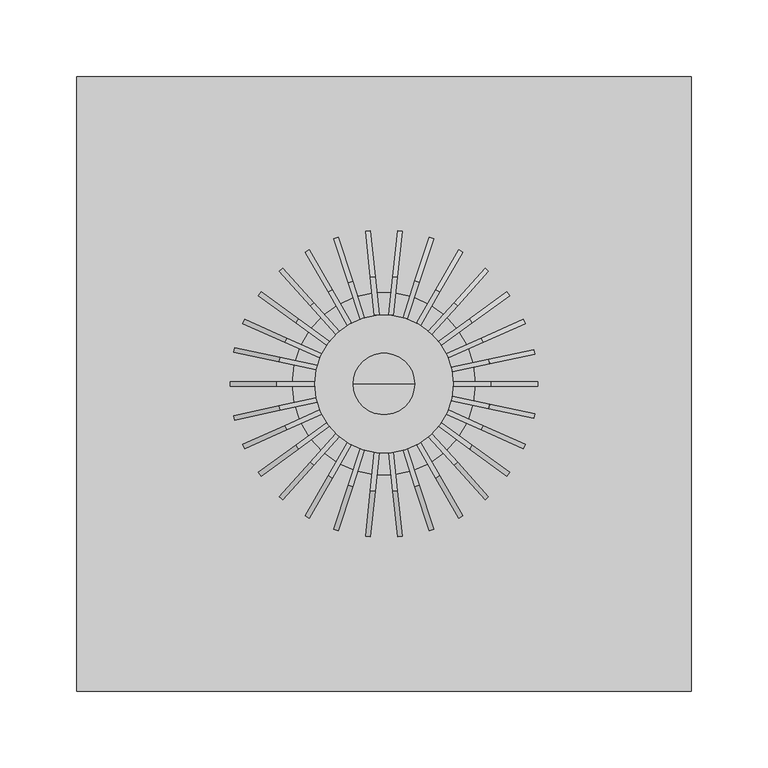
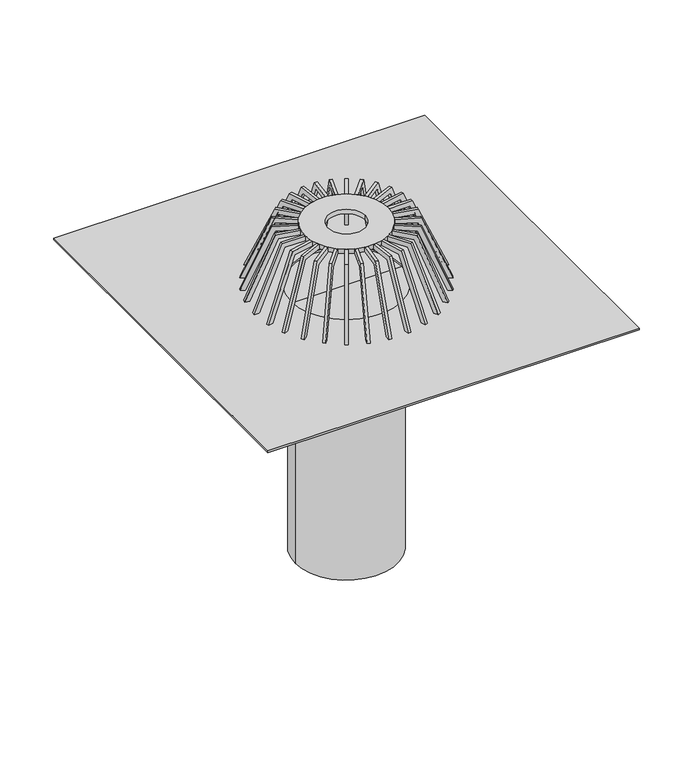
"""IFC4 building model written with IfcOpenShell, lengths in millimetres: sanitary terminal geometry, NLRS_52_PF_LB_trechter met aansluitplaat ø110mm_geb : d110 - 6L/s."""

from ifc_helpers import new_model, si_unit, point, frame, origin, origin_2d, place, context, project, spatial, polyline, circle_curve, trimmed, segment, composite_curve, outline, extrude, source, transform, mapped, element, save
from ifc_brep_helpers import plane_surface, cylinder_surface, revolved_surface, advanced_brep


def sanitary_terminal_4983428c(model_context):
    return source(origin(), model_context, "Body", "SolidModel", [
        extrude(outline(polyline([(-5.0, 0.0), (0.0, 0.0), (-30.0, -70.0), (-55.0, -70.0), (-55.0, -65.0), (-32.8571428, -65.0), (-5.0, 0.0)])), frame((68.0277779, 73.3107866, 0.0), z_axis=(-0.7431448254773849, 0.6691306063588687, 0.0), x_axis=(0.6691306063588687, 0.7431448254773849, 0.0)), (0.0, 0.0, 1.0), 3.0),
        extrude(outline(composite_curve([segment(trimmed(circle_curve(origin_2d(), 45.0), [point((45.0, 0.0))], [point((-45.0, 0.0))], False, "CARTESIAN"), True, "CONTINUOUS"), segment(trimmed(circle_curve(origin_2d(), 45.0), [point((-45.0, 0.0))], [point((45.0, 0.0))], False, "CARTESIAN"), True, "CONTINUOUS")], self_intersect=False), holes=[composite_curve([segment(trimmed(circle_curve(origin_2d(), 20.0), [point((20.0, 0.0))], [point((-20.0, 0.0))], True, "CARTESIAN"), True, "CONTINUOUS"), segment(trimmed(circle_curve(origin_2d(), 20.0), [point((-20.0, 0.0))], [point((20.0, 0.0))], True, "CARTESIAN"), True, "CONTINUOUS")], self_intersect=False)]), frame((0.0, 0.0, 65.0), z_axis=(0.0, 0.0, 1.0), x_axis=(1.0, 0.0, 0.0)), (0.0, 0.0, 1.0), 5.0),
        extrude(outline(polyline([(0.0, 0.0), (1.9695965, -4.5957252), (-74.1881346, -4.5957252), (-84.036117, 18.3829006), (-79.4403919, 20.3524971), (-70.7178931, 0.0), (0.0, 0.0)])), frame((62.4526904, -71.6024543, 0.0), z_axis=(0.7431448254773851, 0.6691306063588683, 0.0), x_axis=(0.2635834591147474, -0.29273908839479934, -0.9191450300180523)), (0.0, 0.0, 1.0), 3.0),
        extrude(outline(polyline([(0.0, 0.0), (1.9695965, -4.5957252), (-74.1881346, -4.5957252), (-84.036117, 18.3829006), (-79.4403919, 20.3524971), (-70.7178931, -1e-07), (0.0, 0.0)])), frame((92.6121545, -21.218832, 0.0), z_axis=(0.20791169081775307, 0.978147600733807, 0.0), x_axis=(0.3853112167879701, -0.08190042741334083, -0.9191450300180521)), (0.0, 0.0, 1.0), 3.0),
        extrude(outline(polyline([(0.0, 0.0), (1.9695965, -4.5957251), (-74.1881346, -4.5957251), (-84.0361171, 18.3829007), (-79.4403919, 20.3524971), (-70.7178931, 0.0), (0.0, 0.0)])), frame((75.9871909, -57.0620277, 0.0), z_axis=(0.5877852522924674, 0.8090169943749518, 0.0), x_axis=(0.31868740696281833, -0.23153995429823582, -0.9191450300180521)), (0.0, 0.0, 1.0), 3.0),
        extrude(outline(polyline([(0.0, 0.0), (1.9695965, -4.5957252), (-74.1881346, -4.5957252), (-84.036117, 18.3829006), (-79.4403919, 20.3524971), (-70.7178931, 0.0), (0.0, 0.0)])), frame((86.1767135, -40.0102993, 0.0), z_axis=(0.4067366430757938, 0.9135454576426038, 0.0), x_axis=(0.3598631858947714, -0.16022141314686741, -0.9191450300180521)), (0.0, 0.0, 1.0), 3.0),
        extrude(outline(polyline([(5.0, 0.0), (32.8571429, -65.0), (55.0, -65.0), (55.0, -70.0), (30.0, -70.0), (0.0, 0.0), (5.0, 0.0)])), frame((-90.7444408, -42.0439825, 0.0), z_axis=(-0.40673664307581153, 0.9135454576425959, 0.0), x_axis=(0.9135454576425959, 0.40673664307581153, 0.0)), (0.0, 0.0, 1.0), 3.0),
        extrude(outline(polyline([(5.0, 0.0), (32.8571428, -65.0), (55.0, -65.0), (55.0, -70.0), (30.0, -70.0), (0.0, 0.0), (5.0, 0.0)])), frame((-97.2430273, -23.4809602, 0.0), z_axis=(-0.20791169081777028, 0.9781476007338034, 0.0), x_axis=(0.9781476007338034, 0.20791169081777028, 0.0)), (0.0, 0.0, 1.0), 3.0),
        extrude(outline(polyline([(-5.0, 0.0), (0.0, 0.0), (-30.0, -70.0), (-55.0, -70.0), (-55.0, -65.0), (-32.8571428, -65.0), (-5.0, 0.0)])), frame((48.7009619, -87.3525404, 0.0), z_axis=(0.8660254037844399, 0.4999999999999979, 0.0), x_axis=(0.4999999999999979, -0.8660254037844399, 0.0)), (0.0, 0.0, 1.0), 3.0),
        extrude(outline(polyline([(-5.0, 0.0), (0.0, 0.0), (-30.0, -70.0), (-55.0, -70.0), (-55.0, -65.0), (-32.8571429, -65.0), (-5.0, 0.0)])), frame((29.4751147, -95.5691771, 0.0), z_axis=(0.9510565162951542, 0.30901699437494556, 0.0), x_axis=(0.30901699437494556, -0.9510565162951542, 0.0)), (0.0, 0.0, 1.0), 3.0),
        extrude(outline(polyline([(-4.9999999, 0.0), (0.0, 0.0), (-29.9999999, -70.0), (-55.0, -70.0), (-55.0, -65.0), (-32.8571429, -65.0), (-4.9999999, 0.0)])), frame((8.9610635, -99.6089822, 0.0), z_axis=(0.9945218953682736, 0.10452846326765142, 0.0), x_axis=(0.10452846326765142, -0.9945218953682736, 0.0)), (0.0, 0.0, 1.0), 3.0),
        extrude(outline(polyline([(4.9999999, 0.0), (32.8571429, -65.0), (55.0, -65.0), (55.0, -70.0), (29.9999999, -70.0), (0.0, 0.0), (4.9999999, 0.0)])), frame((-8.9610635, -99.6089822, 0.0), z_axis=(-0.9945218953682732, 0.10452846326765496, 0.0), x_axis=(0.10452846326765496, 0.9945218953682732, 0.0)), (0.0, 0.0, 1.0), 3.0),
        extrude(outline(polyline([(5.0, 0.0), (32.8571429, -65.0), (55.0, -65.0), (55.0, -70.0), (30.0, -70.0), (0.0, 0.0), (5.0, 0.0)])), frame((-29.7068456, -95.4938832, 0.0), z_axis=(-0.9510565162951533, 0.30901699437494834, 0.0), x_axis=(0.30901699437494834, 0.9510565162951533, 0.0)), (0.0, 0.0, 1.0), 3.0),
        extrude(outline(polyline([(5.0, 0.0), (32.8571428, -65.0), (55.0, -65.0), (55.0, -70.0), (30.0, -70.0), (0.0, 0.0), (5.0, 0.0)])), frame((-48.7009619, -87.3525404, 0.0), z_axis=(-0.866025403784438, 0.5000000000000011, 0.0), x_axis=(0.5000000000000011, 0.866025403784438, 0.0)), (0.0, 0.0, 1.0), 3.0),
        extrude(outline(polyline([(5.0, 0.0), (32.8571428, -65.0), (55.0, -65.0), (55.0, -70.0), (30.0, -70.0), (0.0, 0.0), (5.0, 0.0)])), frame((-65.7983434, -75.3181785, 0.0), z_axis=(-0.7431448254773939, 0.6691306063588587, 0.0), x_axis=(0.6691306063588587, 0.7431448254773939, 0.0)), (0.0, 0.0, 1.0), 3.0),
        extrude(outline(polyline([(5.0, 0.0), (32.8571429, -65.0), (55.0, -65.0), (55.0, -70.0), (30.0, -70.0), (0.0, 0.0), (5.0, 0.0)])), frame((-80.0200216, -59.9920507, 0.0), z_axis=(-0.5877852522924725, 0.809016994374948, 0.0), x_axis=(0.809016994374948, 0.5877852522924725, 0.0)), (0.0, 0.0, 1.0), 3.0),
        extrude(outline(polyline([(-5.0, 0.0), (0.0, 0.0), (-30.0, -70.0), (-55.0, -70.0), (-55.0, -65.0), (-32.8571428, -65.0), (-5.0, 0.0)])), frame((98.1266276, 19.3239477, 0.0), z_axis=(-0.2079116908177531, 0.978147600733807, 0.0), x_axis=(0.978147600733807, 0.2079116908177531, 0.0)), (0.0, 0.0, 1.0), 3.0),
        extrude(outline(polyline([(-5.0, 0.0), (0.0, 0.0), (-30.0, -70.0), (-55.0, -70.0), (-55.0, -65.0), (-32.8571429, -65.0), (-5.0, 0.0)])), frame((81.7956316, 57.573903, 0.0), z_axis=(-0.5877852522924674, 0.8090169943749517, 0.0), x_axis=(0.8090169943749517, 0.5877852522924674, 0.0)), (0.0, 0.0, 1.0), 3.0),
        extrude(outline(polyline([(-5.0, 0.0), (0.0, 0.0), (-30.0, -70.0), (-54.9999999, -70.0), (-54.9999999, -65.0), (-32.8571429, -65.0), (-5.0, 0.0)])), frame((91.9646507, 39.3033461, 0.0), z_axis=(-0.4067366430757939, 0.9135454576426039, 0.0), x_axis=(0.9135454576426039, 0.4067366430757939, 0.0)), (0.0, 0.0, 1.0), 3.0),
        extrude(outline(polyline([(0.0, 0.0), (70.7178931, 0.0), (79.4403918, 20.352497), (84.036117, 18.3829005), (74.1881346, -4.5957252), (-1.9695965, -4.5957252), (0.0, 0.0)])), frame((-87.3969234, 37.2696629, 0.0), z_axis=(0.4067366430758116, 0.9135454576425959, 0.0), x_axis=(0.35986318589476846, -0.16022141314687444, 0.9191450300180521)), (0.0, 0.0, 1.0), 3.0),
        extrude(outline(polyline([(0.0, 0.0), (70.7178931, 1e-07), (79.4403919, 20.3524971), (84.036117, 18.3829006), (74.1881346, -4.5957252), (-1.9695965, -4.5957252), (0.0, 0.0)])), frame((-92.9760244, 19.5069589, 0.0), z_axis=(0.2079116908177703, 0.9781476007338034, 0.0), x_axis=(0.3853112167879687, -0.08190042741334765, 0.9191450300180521)), (0.0, 0.0, 1.0), 3.0),
        extrude(outline(polyline([(0.0, 0.0), (1.9695965, -4.5957251), (-74.1881346, -4.5957251), (-84.036117, 18.3829006), (-79.4403919, 20.3524971), (-70.7178931, 0.0), (0.0, 0.0)])), frame((48.7990381, 81.5224134, 0.0), z_axis=(-0.8660254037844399, 0.4999999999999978, 0.0), x_axis=(0.19695964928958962, 0.34114411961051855, -0.9191450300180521)), (0.0, 0.0, 1.0), 3.0),
        extrude(outline(polyline([(0.0, 0.0), (1.9695965, -4.5957251), (-74.1881346, -4.5957251), (-84.0361171, 18.3829007), (-79.4403919, 20.3524972), (-70.7178931, 0.0), (0.0, 0.0)])), frame((30.7831992, 89.8868436, 0.0), z_axis=(-0.9510565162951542, 0.30901699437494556, 0.0), x_axis=(0.1217277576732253, 0.3746395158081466, -0.9191450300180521)), (0.0, 0.0, 1.0), 3.0),
        extrude(outline(polyline([(0.0, 0.0), (1.9695965, -4.5957251), (-74.1881346, -4.5957251), (-84.036117, 18.3829006), (-79.4403919, 20.3524971), (-70.7178931, 0.0), (0.0, 0.0)])), frame((11.4219869, 94.3227874, 0.0), z_axis=(-0.9945218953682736, 0.10452846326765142, 0.0), x_axis=(0.04117577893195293, 0.3917613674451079, -0.9191450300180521)), (0.0, 0.0, 1.0), 3.0),
        extrude(outline(polyline([(0.0, 0.0), (70.7178931, 0.0), (79.4403919, 20.3524971), (84.036117, 18.3829006), (74.1881346, -4.5957251), (-1.9695965, -4.5957251), (0.0, 0.0)])), frame((-11.4219869, 94.3227874, 0.0), z_axis=(0.9945218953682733, 0.10452846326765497, 0.0), x_axis=(0.04117577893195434, -0.3917613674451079, 0.9191450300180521)), (0.0, 0.0, 1.0), 3.0),
        extrude(outline(polyline([(0.0, 0.0), (70.7178931, -1e-07), (79.4403919, 20.3524971), (84.036117, 18.3829006), (74.1881346, -4.5957252), (-1.9695965, -4.5957252), (0.0, 0.0)])), frame((-31.0149302, 89.8115496, 0.0), z_axis=(0.9510565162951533, 0.30901699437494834, 0.0), x_axis=(0.1217277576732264, -0.37463951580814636, 0.9191450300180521)), (0.0, 0.0, 1.0), 3.0),
        extrude(outline(polyline([(0.0, 0.0), (70.7178931, 0.0), (79.4403919, 20.3524971), (84.036117, 18.3829006), (74.1881346, -4.5957251), (-1.9695965, -4.5957251), (0.0, 0.0)])), frame((-48.7990381, 81.5224134, 0.0), z_axis=(0.866025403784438, 0.5000000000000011, 0.0), x_axis=(0.196959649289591, -0.34114411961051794, 0.9191450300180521)), (0.0, 0.0, 1.0), 3.0),
        extrude(outline(polyline([(0.0, 0.0), (70.7178931, 0.0), (79.4403919, 20.3524971), (84.036117, 18.3829006), (74.1881345, -4.5957252), (-1.9695965, -4.5957252), (0.0, 0.0)])), frame((-64.6821248, 69.5950625, 0.0), z_axis=(0.7431448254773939, 0.6691306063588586, 0.0), x_axis=(0.2635834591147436, -0.29273908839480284, 0.9191450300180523)), (0.0, 0.0, 1.0), 3.0),
        extrude(outline(polyline([(0.0, 0.0), (70.7178931, 0.0), (79.4403919, 20.3524971), (84.036117, 18.3829006), (74.1881345, -4.5957252), (-1.9695965, -4.5957251), (0.0, 0.0)])), frame((-77.7382923, 54.6260735, 0.0), z_axis=(0.5877852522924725, 0.8090169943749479, 0.0), x_axis=(0.31868740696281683, -0.2315399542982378, 0.9191450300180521)), (0.0, 0.0, 1.0), 3.0),
        extrude(outline(polyline([(0.0, -95.0), (65.0, -67.1428571), (65.0, -45.0), (70.0, -45.0), (70.0, -70.0), (0.0, -100.0), (0.0, -95.0)])), frame((0.0, -1.5, 0.0), z_axis=(0.0, 1.0, 0.0), x_axis=(0.0, 0.0, 1.0)), (0.0, 0.0, 1.0), 3.0),
        extrude(outline(polyline([(0.0, 95.0), (0.0, 100.0), (70.0, 70.0), (70.0, 45.0), (65.0, 45.0), (65.0, 67.1428571), (0.0, 95.0)])), frame((0.0, -1.5, 0.0), z_axis=(0.0, 1.0, 0.0), x_axis=(0.0, 0.0, 1.0)), (0.0, 0.0, 1.0), 3.0),
        extrude(outline(polyline([(200.0, 200.0), (200.0, -200.0), (-200.0, -200.0), (-200.0, 200.0), (200.0, 200.0)]), holes=[composite_curve([segment(trimmed(circle_curve(origin_2d(), 59.5671458), [point((-59.5671458, 0.0))], [point((59.5671458, 0.0))], True, "CARTESIAN"), True, "CONTINUOUS"), segment(trimmed(circle_curve(origin_2d(), 59.5671458), [point((59.5671458, 0.0))], [point((-59.5671458, 0.0))], True, "CARTESIAN"), True, "CONTINUOUS")], self_intersect=False)]), frame((0.0, 0.0, -2.0), z_axis=(0.0, 0.0, 1.0), x_axis=(1.0, 0.0, 0.0)), (0.0, 0.0, 1.0), 2.0),
        advanced_brep(
        [(0.0, 0.0, -300.0), (-55.0, 0.0, -300.0), (55.0, 0.0, -300.0), (69.5671458, 0.0, -2.0), (-69.5671458, 0.0, -2.0), (0.0, 0.0, -2.0), (55.0, 0.0, -35.0), (-55.0, 0.0, -35.0)],
        [
            (0, 1),
            (1, 2, circle_curve(frame((0.0, 0.0, -300.0), z_axis=(0.0, 0.0, -1.0), x_axis=(-1.0, 0.0, 0.0)), 55.0)),
            (2, 0),
            (2, 1, circle_curve(frame((0.0, 0.0, -300.0), z_axis=(0.0, 0.0, -1.0), x_axis=(-1.0, 0.0, 0.0)), 55.0)),
            (3, 4, circle_curve(frame((0.0, 0.0, -2.0), z_axis=(0.0, 0.0, 1.0), x_axis=(-1.0, 0.0, 0.0)), 69.5671458)),
            (4, 5),
            (5, 3),
            (4, 3, circle_curve(frame((0.0, 0.0, -2.0), z_axis=(0.0, 0.0, 1.0), x_axis=(-1.0, 0.0, 0.0)), 69.5671458)),
            (6, 7, circle_curve(frame((0.0, 0.0, -35.0), z_axis=(0.0, 0.0, 1.0), x_axis=(-1.0, 0.0, 0.0)), 55.0)),
            (7, 4),
            (3, 6),
            (7, 6, circle_curve(frame((0.0, 0.0, -35.0), z_axis=(0.0, 0.0, 1.0), x_axis=(-1.0, 0.0, 0.0)), 55.0)),
            (1, 7),
            (6, 2),
        ],
        [
            plane_surface(frame((0.0, 0.0, -300.0), z_axis=(0.0, 0.0, -1.0), x_axis=(-1.0, 0.0, 0.0))),
            plane_surface(frame((0.0, 0.0, -2.0), z_axis=(0.0, 0.0, 1.0), x_axis=(-1.0, 0.0, 0.0))),
            revolved_surface(polyline([(-69.5671458, 0.0, -2.0), (-55.0, 0.0, -35.0)]), (0.0, 0.0, -1.0194243), (0.0, 0.0, -1.0)),
            cylinder_surface(frame((0.0, 0.0, -1.0194243), z_axis=(0.0, 0.0, -1.0), x_axis=(-1.0, 0.0, 0.0)), 55.0),
        ],
        [
            (0, [[1, 2, 3]]),
            (0, [[-3, 4, -1]]),
            (1, [[5, 6, 7]]),
            (1, [[8, -7, -6]]),
            (2, [[9, 10, -5, 11]]),
            (2, [[12, -11, -8, -10]]),
            (3, [[-2, 13, -9, 14]]),
            (3, [[-4, -14, -12, -13]]),
        ],
    ),
    ])


if __name__ == "__main__":
    model = new_model("IFC4")
    model_context = context("Model", 3, world=origin())
    ifc_project = project(units=[si_unit("LENGTHUNIT", "METRE", prefix="MILLI")], contexts=[model_context])
    site = spatial("IfcSite", under=ifc_project)
    building = spatial("IfcBuilding", under=site)
    placement = place(None, origin())
    sanitary_terminal_shape = sanitary_terminal_4983428c(model_context)
    element("IfcSanitaryTerminal", 1, ObjectType="NLRS_52_PF_LB_trechter met aansluitplaat ø110mm_geb : d110 - 6L/s", at=placement, inside=building, context=model_context, shape_type="MappedRepresentation", body=[
        mapped(sanitary_terminal_shape, transform((0.0, 0.0, 0.0), x_axis=(1.0, 0.0, 0.0), y_axis=(0.0, 1.0, 0.0), z_axis=(0.0, 0.0, 1.0))),
    ])
    save(model, "model.ifc")
